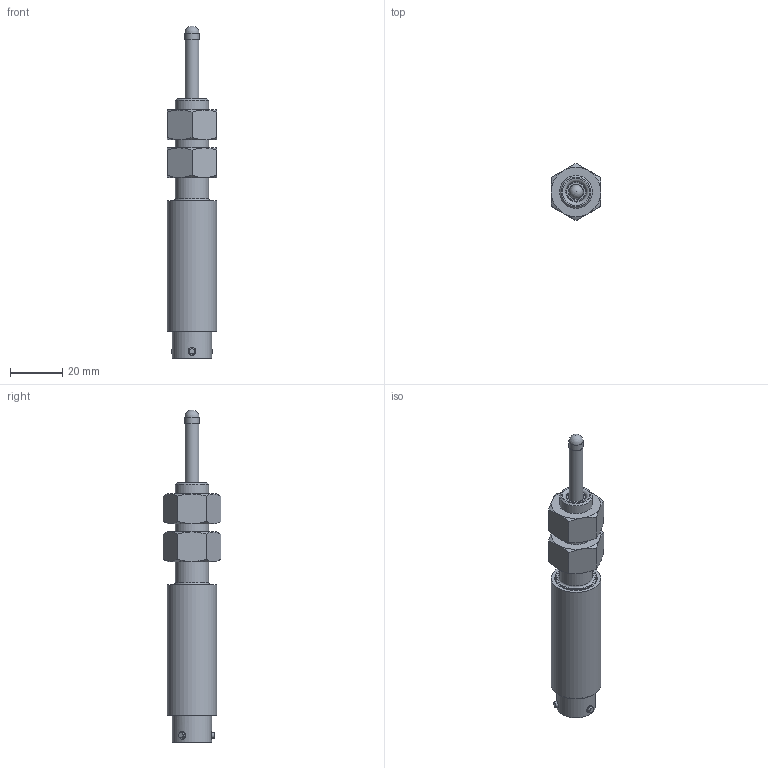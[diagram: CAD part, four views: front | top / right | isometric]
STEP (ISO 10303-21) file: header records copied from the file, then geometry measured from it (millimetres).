
FILE_DESCRIPTION(/* description */ (''),/* implementation_level */ '2;1');
FILE_NAME(/* name */ 'F:\GH SERIES\GH-750-A-XXXX\GH-750-A-050\GH-750-A-050 ASS''Y.iam.stp',/* time_stamp */ '2021-11-17T12:38:58-05:00',/* author */ ('Justin'),/* organization */ (''),/* preprocessor_version */ 'ST-DEVELOPER v18.1',/* originating_system */ 'Autodesk Inventor 2022',/* authorisation */ '');
FILE_SCHEMA (('AUTOMOTIVE_DESIGN { 1 0 10303 214 3 1 1 }'));
Length unit declared in the file: inch
Products named in the file (4): GH-750-A-050 ASS'Y; AS 2465 - 1/2  UNF; GH-750-A-050 Housing_SW; GH-750-A-050 SHAFT_SW
Assembly tree (4 placements, depth 2):
  GH-750-A-050 ASS'Y
    AS 2465 - 1/2  UNF  x2
    GH-750-A-050 Housing_SW
    GH-750-A-050 SHAFT_SW
Bounding box: 19.05 x 22 x 127.41 mm (x, y, z)
Volume: 15933 mm3; surface area: 16717.5 mm2
Topology: 12 solids, 12 shells, 184 faces, 367 edges, 234 vertices
Faces by surface type: plane 75, cylinder 59, cone 43, torus 4, bspline 2, sphere 1
Full cylindrical faces by diameter (mm): 0.762 x12, 2.032 x3, 2.845 x3, 3.048 x3, 4.826 x2, 5.334 x4, 5.397 x1, 7.671 x2, 7.874 x1, 11.328 x2, 12.7 x1, 13.208 x1, 14.986 x1, 15.748 x2, 16.51 x1, 17.069 x1, 18.034 x1, 18.415 x3, 19.05 x1
Entity records: 4908 total; most frequent: CARTESIAN_POINT 1116, DIRECTION 781, ORIENTED_EDGE 630, AXIS2_PLACEMENT_3D 332, EDGE_CURVE 315, VERTEX_POINT 205, EDGE_LOOP 204, CIRCLE 165
